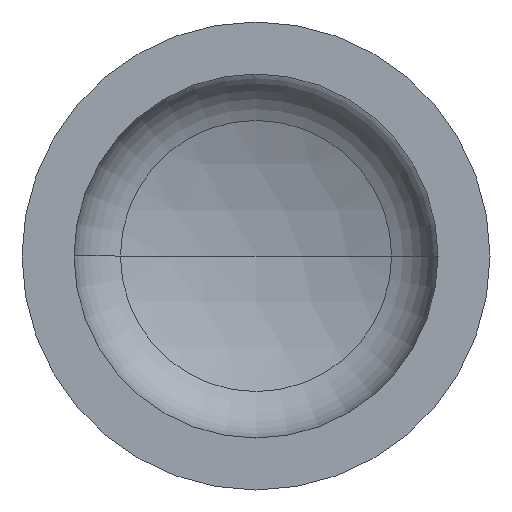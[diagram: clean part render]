
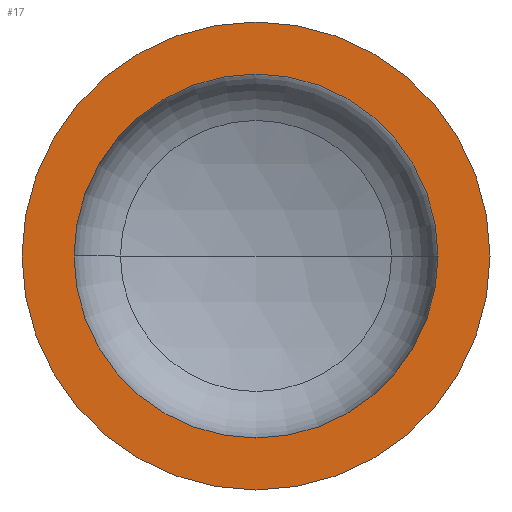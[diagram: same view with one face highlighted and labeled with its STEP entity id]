
A CAD part, front view. The second image highlights one B-rep face of the part: STEP entity #17.
In plain terms, the highlighted planar face has unit normal (0, -1, 0).
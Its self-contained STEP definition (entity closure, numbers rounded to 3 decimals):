
#5 = AXIS2_PLACEMENT_3D ( 'NONE', #295, #145, #313 ) ;
#8 = ORIENTED_EDGE ( 'NONE', *, *, #193, .T. ) ;
#11 = AXIS2_PLACEMENT_3D ( 'NONE', #379, #247, #404 ) ;
#17 = ADVANCED_FACE ( 'NONE', ( #386, #326 ), #261, .F. ) ;
#53 = AXIS2_PLACEMENT_3D ( 'NONE', #240, #239, #238 ) ;
#54 = ORIENTED_EDGE ( 'NONE', *, *, #85, .T. ) ;
#60 = AXIS2_PLACEMENT_3D ( 'NONE', #300, #290, #289 ) ;
#68 = AXIS2_PLACEMENT_3D ( 'NONE', #398, #284, #391 ) ;
#85 = EDGE_CURVE ( 'NONE', #392, #116, #319, .T. ) ;
#89 = EDGE_LOOP ( 'NONE', ( #54, #8 ) ) ;
#92 = EDGE_CURVE ( 'NONE', #128, #336, #309, .T. ) ;
#112 = ORIENTED_EDGE ( 'NONE', *, *, #92, .F. ) ;
#116 = VERTEX_POINT ( 'NONE', #170 ) ;
#128 = VERTEX_POINT ( 'NONE', #235 ) ;
#141 = EDGE_LOOP ( 'NONE', ( #155, #112 ) ) ;
#145 = DIRECTION ( 'NONE',  ( 0., -1., 0. ) ) ;
#155 = ORIENTED_EDGE ( 'NONE', *, *, #191, .F. ) ;
#157 = CIRCLE ( 'NONE', #11, 350. ) ;
#170 = CARTESIAN_POINT ( 'NONE',  ( -450., 0., 0. ) ) ;
#191 = EDGE_CURVE ( 'NONE', #336, #128, #157, .T. ) ;
#193 = EDGE_CURVE ( 'NONE', #116, #392, #396, .T. ) ;
#235 = CARTESIAN_POINT ( 'NONE',  ( -350., 0., 0. ) ) ;
#238 = DIRECTION ( 'NONE',  ( 1., 0., 0. ) ) ;
#239 = DIRECTION ( 'NONE',  ( 0., -1., 0. ) ) ;
#240 = CARTESIAN_POINT ( 'NONE',  ( 0., 0., 0. ) ) ;
#247 = DIRECTION ( 'NONE',  ( 0., -1., 0. ) ) ;
#261 = PLANE ( 'NONE',  #68 ) ;
#274 = CARTESIAN_POINT ( 'NONE',  ( 450., 0., 0. ) ) ;
#284 = DIRECTION ( 'NONE',  ( 0., 1., 0. ) ) ;
#289 = DIRECTION ( 'NONE',  ( 1., 0., 0. ) ) ;
#290 = DIRECTION ( 'NONE',  ( 0., -1., 0. ) ) ;
#295 = CARTESIAN_POINT ( 'NONE',  ( 0., 0., 0. ) ) ;
#300 = CARTESIAN_POINT ( 'NONE',  ( 0., 0., 0. ) ) ;
#309 = CIRCLE ( 'NONE', #53, 350. ) ;
#313 = DIRECTION ( 'NONE',  ( 1., 0., 0. ) ) ;
#316 = CARTESIAN_POINT ( 'NONE',  ( 350., 0., 0. ) ) ;
#319 = CIRCLE ( 'NONE', #60, 450. ) ;
#326 = FACE_OUTER_BOUND ( 'NONE', #89, .T. ) ;
#336 = VERTEX_POINT ( 'NONE', #316 ) ;
#379 = CARTESIAN_POINT ( 'NONE',  ( 0., 0., 0. ) ) ;
#386 = FACE_BOUND ( 'NONE', #141, .T. ) ;
#391 = DIRECTION ( 'NONE',  ( -1., 0., 0. ) ) ;
#392 = VERTEX_POINT ( 'NONE', #274 ) ;
#396 = CIRCLE ( 'NONE', #5, 450. ) ;
#398 = CARTESIAN_POINT ( 'NONE',  ( -450., 0., 0. ) ) ;
#404 = DIRECTION ( 'NONE',  ( 1., 0., 0. ) ) ;
